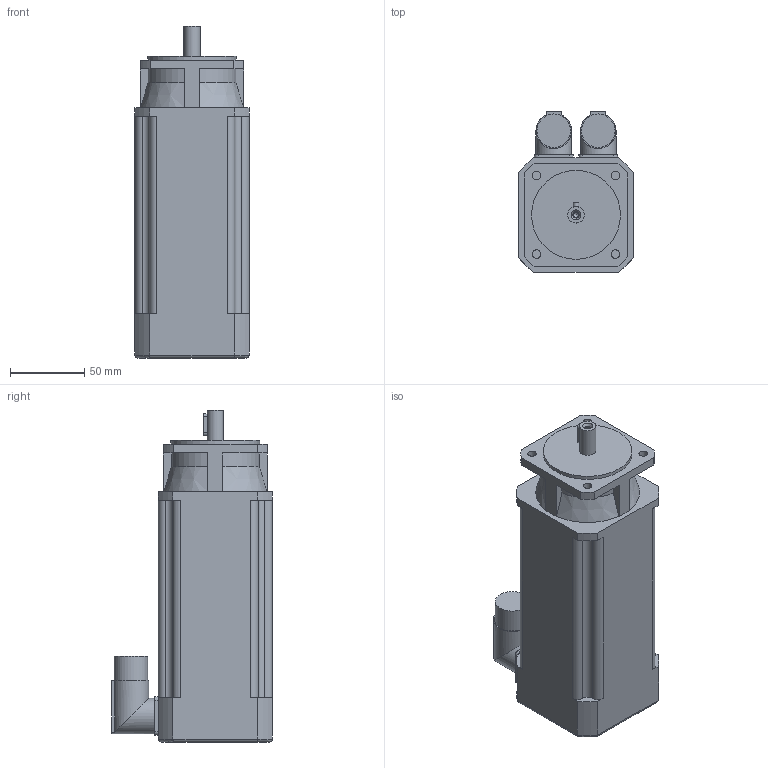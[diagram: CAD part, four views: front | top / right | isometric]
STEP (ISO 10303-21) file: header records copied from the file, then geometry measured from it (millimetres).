
FILE_DESCRIPTION(/* description */ (''),/* implementation_level */ '2;1');
FILE_NAME(/* name */ 'C:\Users\Pastrello_Ylenia\Desktop\Modelli 3D Serad\B36I\B36F5Ixx6A052000.stp',/* time_stamp */ '2015-06-12T15:57:45+02:00',/* author */ ('Pastrello_Ylenia'),/* organization */ (''),/* preprocessor_version */ 'ST-DEVELOPER v15.6',/* originating_system */ 'Autodesk Inventor 2015',/* authorisation */ '');
FILE_SCHEMA (('AUTOMOTIVE_DESIGN { 1 0 10303 214 3 1 1 }'));
Length unit declared in the file: millimetre
Products named in the file (1): B36F5Ixx6A052000
Bounding box: 77 x 108.5 x 224 mm (x, y, z)
Volume: 1118738.1 mm3; surface area: 80888.3 mm2
Topology: 1 solids, 1 shells, 137 faces, 372 edges, 244 vertices
Faces by surface type: plane 66, cylinder 56, cone 11, torus 4
Full cylindrical faces by diameter (mm): 3.242 x1, 4.3 x1, 5.8 x4, 11 x1, 22.7 x2, 24 x2, 60 x1
Entity records: 4352 total; most frequent: CARTESIAN_POINT 890, DIRECTION 726, ORIENTED_EDGE 702, EDGE_CURVE 351, AXIS2_PLACEMENT_3D 259, VERTEX_POINT 239, LINE 208, VECTOR 208
